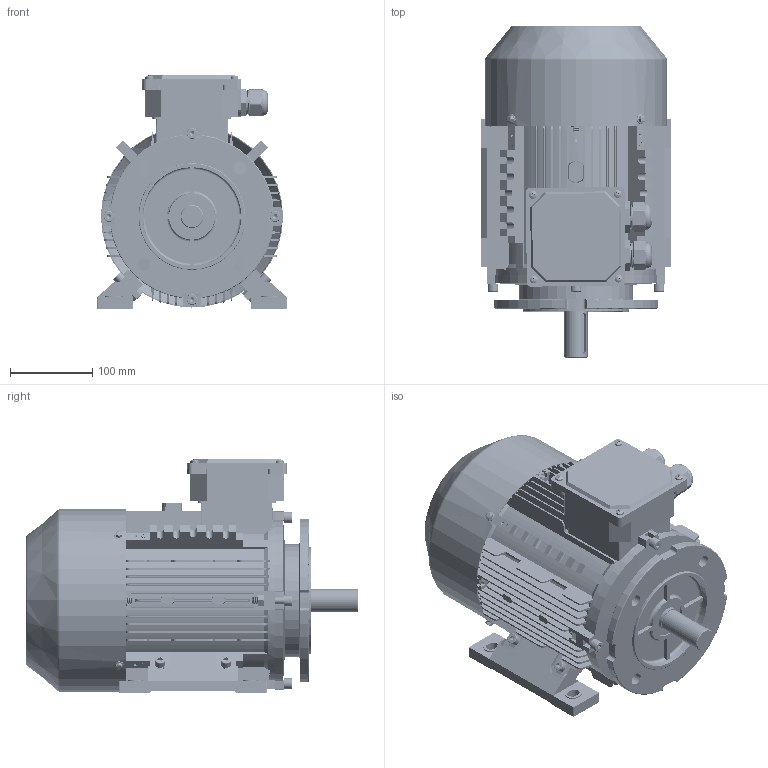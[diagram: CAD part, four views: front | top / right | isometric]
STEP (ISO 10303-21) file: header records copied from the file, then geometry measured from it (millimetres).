
FILE_DESCRIPTION (( 'STEP AP203' ), '1' );
FILE_NAME ('ME3-112B35R 3D.STEP', '2024-07-12T07:17:42', ( 'User' ), ( 'China' ), 'SwSTEP 2.0', 'SolidWorks 2018', '' );
FILE_SCHEMA (( 'CONFIG_CONTROL_DESIGN' ));
Length unit declared in the file: millimetre
Products named in the file (19): hex flange bolts-heavy grade b gb_GB_FASTENER_BOLT_HFBB M5X10-S; MS112-132 諉盄碟釱; M24 蹟杶; hexagon socket head cap screws gb_GB_FASTENER_SCREWS_HSHCS M8X40-S; M24 蹟杶簸; hex nuts-style normal-grades ab gb_GB_HEXAGON_TYPE10 M8X1-S; MS112-132諉盄碟裔; spring lock washers--normal type gb_GB_FASTENER_WASHER_SW 8; ME3-112 儂褲; ME3-112B5R傷裔; hexagon socket head cap screws gb_GB_FASTENER_SCREWS_HSHCS M8X30-S; ME3-112菁褐; ME3-112B35R 3D; 蚐猾45X30X7; ME3-112B3傷裔; ME3-112瑞欶; deep groove ball bearings gb_Rolling bearings 6306 GB 276-94; cross recessed pan head screws gb_GB_CROSS_SCREWS_TYPE1 M5X8-8  H type-S; ME3-112 转轴（386）
Assembly tree (55 placements, depth 2):
  ME3-112B35R 3D
    ME3-112 儂褲
    ME3-112菁褐  x2
    ME3-112B3傷裔
    deep groove ball bearings gb_Rolling bearings 6306 GB 276-94  x2
    ME3-112 转轴（386）
    MS112-132 諉盄碟釱
    hexagon socket head cap screws gb_GB_FASTENER_SCREWS_HSHCS M8X40-S  x8
    hex nuts-style normal-grades ab gb_GB_HEXAGON_TYPE10 M8X1-S  x11
    spring lock washers--normal type gb_GB_FASTENER_WASHER_SW 8  x4
    hexagon socket head cap screws gb_GB_FASTENER_SCREWS_HSHCS M8X30-S  x4
    蚐猾45X30X7
    ME3-112瑞欶
    cross recessed pan head screws gb_GB_CROSS_SCREWS_TYPE1 M5X8-8  H type-S  x8
    hex flange bolts-heavy grade b gb_GB_FASTENER_BOLT_HFBB M5X10-S  x4
    M24 蹟杶  x2
    M24 蹟杶簸  x2
    MS112-132諉盄碟裔
    ME3-112B5R傷裔
Bounding box: 230.78 x 403.61 x 283.5 mm (x, y, z)
Volume: 2794433.7 mm3; surface area: 1329019.6 mm2
Topology: 55 solids, 56 shells, 7964 faces, 19066 edges, 11210 vertices
Faces by surface type: cone 3113, cylinder 2325, plane 2170, torus 240, sphere 72, bspline 44
Entity records: 122925 total; most frequent: CARTESIAN_POINT 31809, ORIENTED_EDGE 18884, DIRECTION 17923, EDGE_CURVE 9442, AXIS2_PLACEMENT_3D 6155, VERTEX_POINT 6008, LINE 5613, VECTOR 5613
